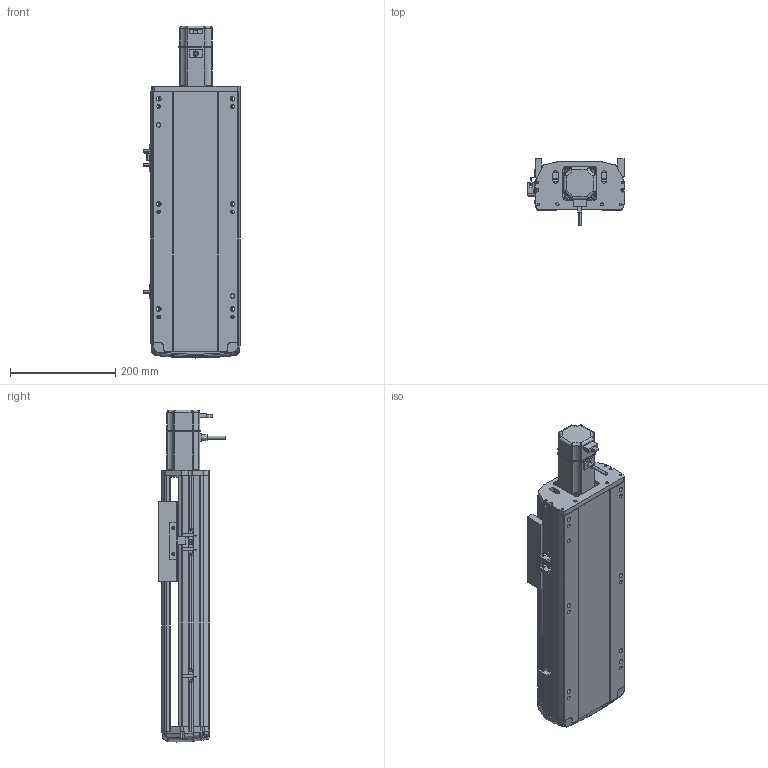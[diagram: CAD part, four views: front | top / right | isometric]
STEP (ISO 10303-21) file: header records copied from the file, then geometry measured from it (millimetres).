
FILE_DESCRIPTION (( 'STEP AP214' ), '1' );
FILE_NAME ('RTH17-XX-250-E-M40-C4（方程式）.STEP', '2025-10-24T05:38:37', ( '' ), ( '' ), 'SwSTEP 2.0', 'SolidWorks 2018', '' );
FILE_SCHEMA (( 'AUTOMOTIVE_DESIGN' ));
Length unit declared in the file: millimetre
Products named in the file (9): N_RTH17-E-007上盖^RTH17-XX-XX-E-M40-C4（方程式）; N_OMRON EE-SX672 換覜ん^RTH17-XX-XX-E-M40-C4ㄗ源最宒ㄘ; N_RTH17-E-008-P40电机板^RTH17-XX-XX-E-M40-C4（方程式）; N_RTH17-GY-001P^RTH17-XX-XX-E-M40-C4（方程式）; N_RTH17-E-011底座^RTH17-XX-XX-E-M40-C4（方程式）; N_RTH-BL-012 感应片(外置)^RTH17-XX-XX-E-M40-C4（方程式）; N_RTH17-E-004丝杆螺母连接座^RTH17-XX-XX-E-M40-C4（方程式）; N_M40^RTH17-XX-XX-E-M40-C4（方程式）; RTH17-XX-250-E-M40-C4（方程式）
Assembly tree (10 placements, depth 2):
  RTH17-XX-250-E-M40-C4（方程式）
    N_RTH17-E-011底座^RTH17-XX-XX-E-M40-C4（方程式）
    N_RTH17-E-007上盖^RTH17-XX-XX-E-M40-C4（方程式）
    N_RTH17-E-008-P40电机板^RTH17-XX-XX-E-M40-C4（方程式）
    N_OMRON EE-SX672 換覜ん^RTH17-XX-XX-E-M40-C4ㄗ源最宒ㄘ  x3
    N_RTH-BL-012 感应片(外置)^RTH17-XX-XX-E-M40-C4（方程式）
    N_RTH17-E-004丝杆螺母连接座^RTH17-XX-XX-E-M40-C4（方程式）
    N_RTH17-GY-001P^RTH17-XX-XX-E-M40-C4（方程式）
    N_M40^RTH17-XX-XX-E-M40-C4（方程式）
Bounding box: 183.5 x 127 x 630.77 mm (x, y, z)
Volume: 4651541.6 mm3; surface area: 659952.1 mm2
Topology: 9 solids, 11 shells, 1633 faces, 4549 edges, 2966 vertices
Faces by surface type: plane 823, cylinder 443, bspline 330, cone 28, torus 9
Entity records: 47261 total; most frequent: CARTESIAN_POINT 19016, ORIENTED_EDGE 6122, DIRECTION 5085, EDGE_CURVE 3065, VERTEX_POINT 2002, VECTOR 1741, LINE 1741, AXIS2_PLACEMENT_3D 1672
